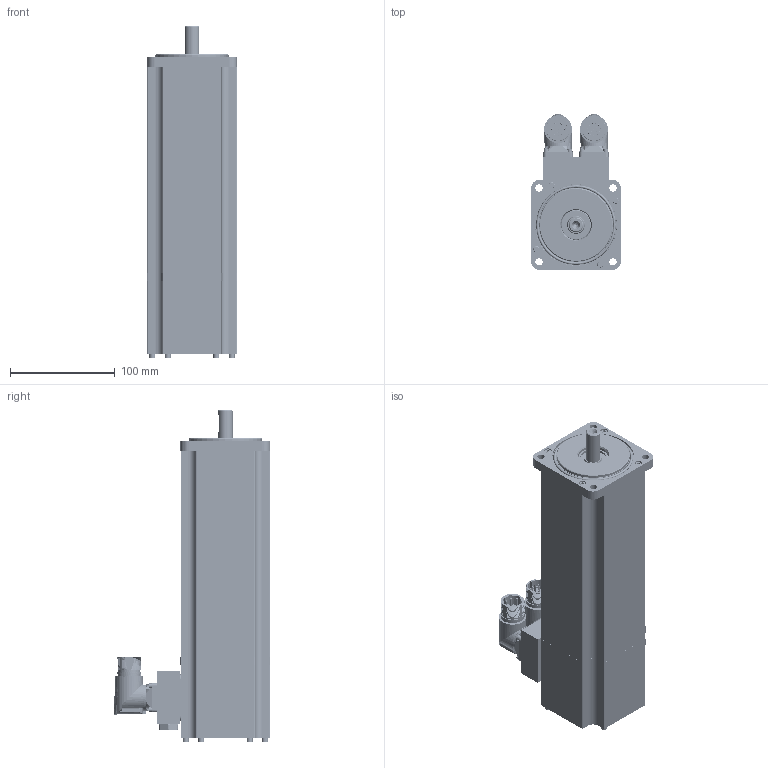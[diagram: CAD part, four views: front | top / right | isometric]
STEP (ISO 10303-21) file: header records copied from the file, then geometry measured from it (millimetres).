
FILE_DESCRIPTION (( 'STEP AP203' ), '1' );
FILE_NAME ('073709A.step', '2021-07-19T12:59:17', ( '' ), ( '' ), 'SwSTEP 2.0', 'SolidWorks 2019', '' );
FILE_SCHEMA (( 'CONFIG_CONTROL_DESIGN' ));
Products named in the file (1): 073709A
Bounding box: 86 x 149.91 x 317.73 mm (x, y, z)
Volume: 1582862 mm3; surface area: 478395.6 mm2
Topology: 189 solids, 191 shells, 9721 faces, 25680 edges, 16700 vertices
Faces by surface type: plane 4307, cylinder 3150, bspline 1149, cone 560, torus 489, sphere 66
Entity records: 533935 total; most frequent: CARTESIAN_POINT 303773, ORIENTED_EDGE 50872, DIRECTION 43522, EDGE_CURVE 25436, VERTEX_POINT 16628, AXIS2_PLACEMENT_3D 14768, VECTOR 13986, LINE 13986
